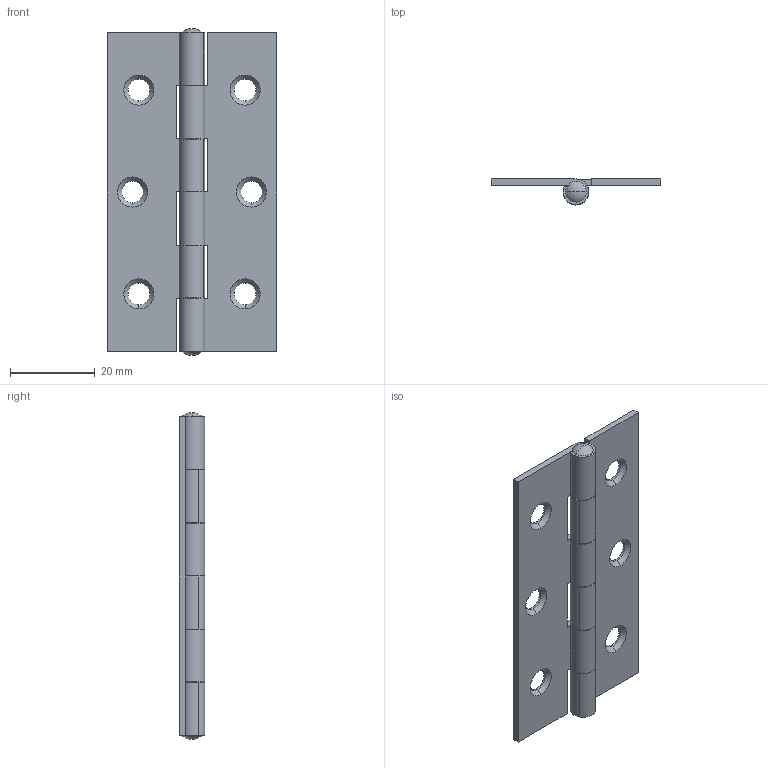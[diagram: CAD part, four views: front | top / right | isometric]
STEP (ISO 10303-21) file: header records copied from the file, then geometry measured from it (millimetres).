
FILE_DESCRIPTION((''),'2;1');
FILE_NAME('6109.30.stp','2015-07-20T11:50:02',(''),(''),'Mechanical Desktop 2006','Mechanical Desktop 2006',', , ');
FILE_SCHEMA(('CONFIG_CONTROL_DESIGN'));
Length unit declared in the file: millimetre
Products named in the file (4): 6109; 1; 2; 3
Assembly tree (3 placements, depth 2):
  6109
    1
    2
    3
Bounding box: 40 x 6 x 76.97 mm (x, y, z)
Volume: 5716.1 mm3; surface area: 8651.2 mm2
Topology: 3 solids, 3 shells, 103 faces, 267 edges, 172 vertices
Faces by surface type: plane 39, cylinder 26, bspline 24, cone 10, sphere 4
Entity records: 3749 total; most frequent: CARTESIAN_POINT 981, ORIENTED_EDGE 534, DIRECTION 523, EDGE_CURVE 267, AXIS2_PLACEMENT_3D 194, VERTEX_POINT 172, VECTOR 135, LINE 135
